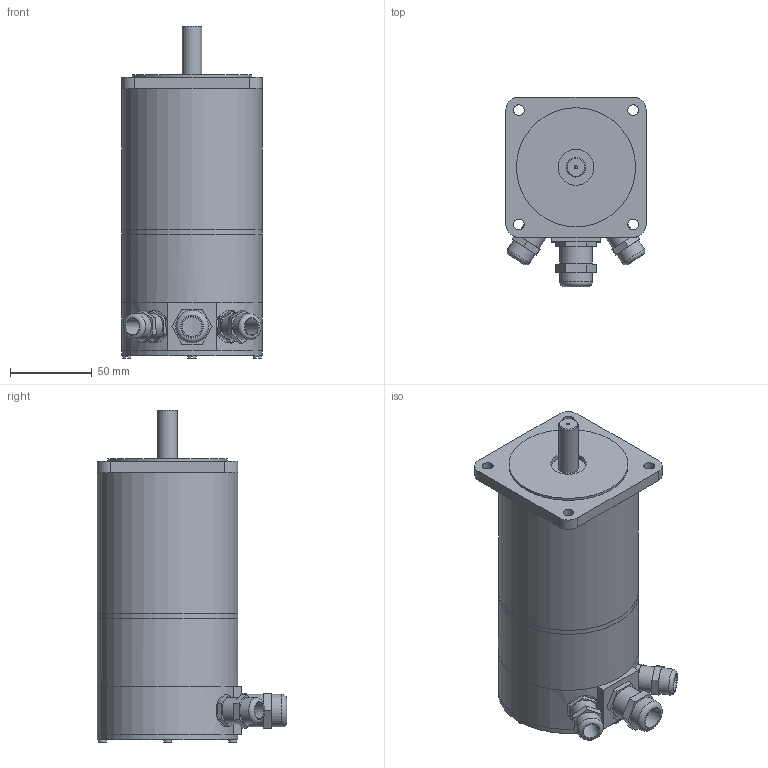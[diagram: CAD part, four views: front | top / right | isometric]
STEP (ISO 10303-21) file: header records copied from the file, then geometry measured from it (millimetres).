
FILE_DESCRIPTION((''),'2;1');
FILE_NAME('C:\Users\Reinhard\Documents\Inventor\Testschrittmotor\SM88\SM88.2-BE50-KV.stp','2012-11-12T20:21:52',('Reinhard'),(''),'Autodesk Inventor 2012','Autodesk Inventor 2012','');
FILE_SCHEMA(('CONFIG_CONTROL_DESIGN'));
Length unit declared in the file: millimetre
Products named in the file (1): SM88
Bounding box: 86 x 115.99 x 203.4 mm (x, y, z)
Volume: 204570.7 mm3; surface area: 133548.1 mm2
Topology: 2 solids, 3 shells, 171 faces, 385 edges, 252 vertices
Faces by surface type: plane 106, cylinder 57, cone 3, torus 3, sphere 2
Full cylindrical faces by diameter (mm): 2 x1, 5 x4, 6.6 x4, 10 x2, 12 x4, 13 x2, 15 x1, 16 x4, 18.376 x1, 20 x3, 22 x1, 73 x1, 78 x2, 82 x2, 86 x4
Entity records: 4680 total; most frequent: CARTESIAN_POINT 936, DIRECTION 784, ORIENTED_EDGE 664, EDGE_CURVE 332, AXIS2_PLACEMENT_3D 298, EDGE_LOOP 261, VERTEX_POINT 241, VECTOR 188
